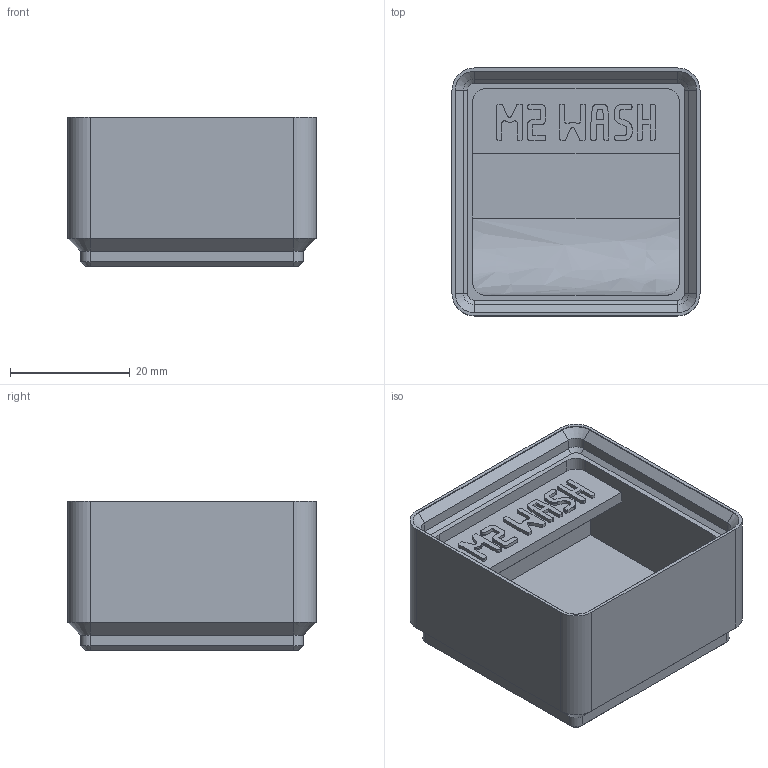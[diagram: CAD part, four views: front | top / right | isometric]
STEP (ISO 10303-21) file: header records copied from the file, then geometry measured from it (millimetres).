
FILE_DESCRIPTION(('Open CASCADE Model'),'2;1');
FILE_NAME('m2-washer','2026-11-17T16:07:55',('Author'),('Open CASCADE'), 'Open CASCADE STEP processor 8.0','build123d','Unknown');
FILE_SCHEMA(('AUTOMOTIVE_DESIGN { 1 0 10303 214 1 1 1 1 }'));
Products named in the file (1): m2-washer
Bounding box: 41.5 x 41.5 x 25 mm (x, y, z)
Volume: 22479.1 mm3; surface area: 9541.8 mm2
Topology: 1 solids, 1 shells, 764 faces, 2211 edges, 1458 vertices
Faces by surface type: plane 727, cylinder 20, cone 16, extrusion 1
Entity records: 52086 total; most frequent: CARTESIAN_POINT 10571, DIRECTION 6732, VECTOR 5094, LINE 5093, ORIENTED_EDGE 4422, PCURVE 4422, DEFINITIONAL_REPRESENTATION 4422, EDGE_CURVE 2211
